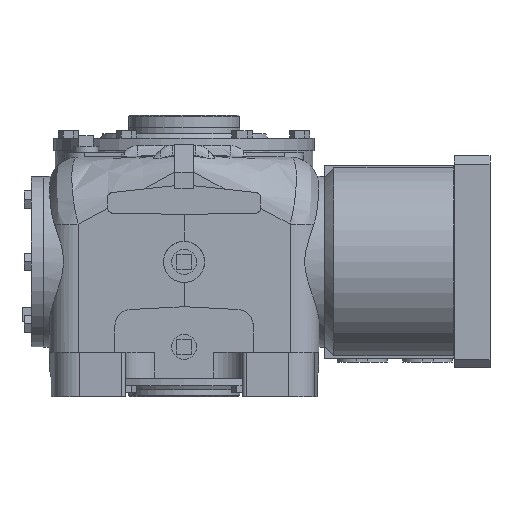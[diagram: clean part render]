
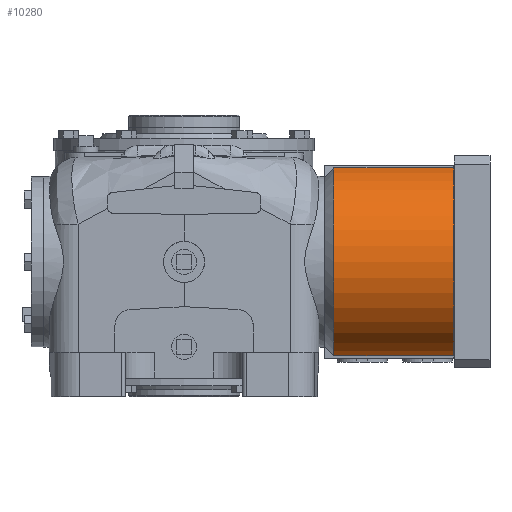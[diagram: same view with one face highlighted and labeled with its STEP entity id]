
A CAD part, front view. The second image highlights one B-rep face of the part: STEP entity #10280.
In plain terms, the highlighted cylindrical face has radius 104.775 mm (diameter 209.55 mm), a partial arc.
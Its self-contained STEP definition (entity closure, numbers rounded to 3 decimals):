
#185=CYLINDRICAL_SURFACE('',#12717,104.775);
#1379=LINE('',#22710,#2294);
#1383=LINE('',#22717,#2298);
#2294=VECTOR('',#15186,1000.);
#2298=VECTOR('',#15196,1000.);
#4964=ORIENTED_EDGE('',*,*,#6411,.F.);
#4965=ORIENTED_EDGE('',*,*,#6451,.F.);
#4966=ORIENTED_EDGE('',*,*,#6427,.T.);
#4967=ORIENTED_EDGE('',*,*,#6455,.T.);
#6411=EDGE_CURVE('',#7410,#7411,#7696,.T.);
#6427=EDGE_CURVE('',#7426,#7425,#7703,.T.);
#6451=EDGE_CURVE('',#7426,#7410,#1379,.T.);
#6455=EDGE_CURVE('',#7425,#7411,#1383,.T.);
#7410=VERTEX_POINT('',#22614);
#7411=VERTEX_POINT('',#22616);
#7425=VERTEX_POINT('',#22653);
#7426=VERTEX_POINT('',#22655);
#7696=CIRCLE('',#12683,104.775);
#7703=CIRCLE('',#12695,104.775);
#8452=EDGE_LOOP('',(#4964,#4965,#4966,#4967));
#9243=FACE_BOUND('',#8452,.T.);
#10280=ADVANCED_FACE('',(#9243),#185,.T.);
#12683=AXIS2_PLACEMENT_3D('',#22615,#15103,#15104);
#12695=AXIS2_PLACEMENT_3D('',#22654,#15135,#15136);
#12717=AXIS2_PLACEMENT_3D('',#22719,#15199,#15200);
#15103=DIRECTION('',(1.,0.,0.));
#15104=DIRECTION('',(0.,0.,-1.));
#15135=DIRECTION('',(1.,0.,0.));
#15136=DIRECTION('',(0.,0.,-1.));
#15186=DIRECTION('',(1.,0.,0.));
#15196=DIRECTION('',(1.,0.,0.));
#15199=DIRECTION('',(1.,0.,0.));
#15200=DIRECTION('',(0.,0.,-1.));
#22614=CARTESIAN_POINT('',(139.852,-24.875,101.779));
#22615=CARTESIAN_POINT('',(139.852,0.,0.));
#22616=CARTESIAN_POINT('',(139.852,-24.868,-101.781));
#22653=CARTESIAN_POINT('',(9.804,-24.868,-101.781));
#22654=CARTESIAN_POINT('',(9.804,0.,0.));
#22655=CARTESIAN_POINT('',(9.804,-24.875,101.779));
#22710=CARTESIAN_POINT('',(122.103,-24.875,101.779));
#22717=CARTESIAN_POINT('',(122.103,-24.868,-101.781));
#22719=CARTESIAN_POINT('',(122.103,0.,0.));
